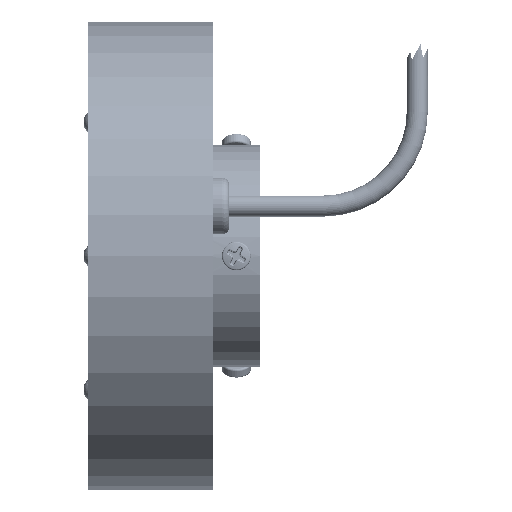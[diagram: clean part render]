
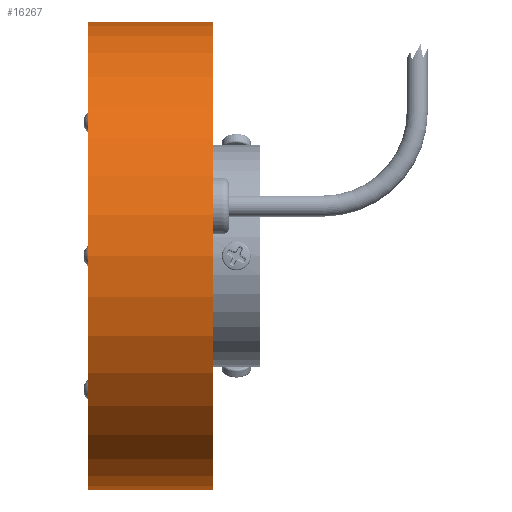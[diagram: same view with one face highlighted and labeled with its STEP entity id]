
A CAD part, left-side view. The second image highlights one B-rep face of the part: STEP entity #16267.
In plain terms, the highlighted cylindrical face has radius 63.246 mm (diameter 126.492 mm), a partial arc.
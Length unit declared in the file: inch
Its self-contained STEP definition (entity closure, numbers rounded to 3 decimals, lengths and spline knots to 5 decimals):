
#752 = EDGE_CURVE ( 'NONE', #32881, #24678, #53274, .T. ) ;
#1386 = CARTESIAN_POINT ( 'NONE',  ( 0., 0., -2.49 ) ) ;
#1412 = ORIENTED_EDGE ( 'NONE', *, *, #37118, .F. ) ;
#6451 = ORIENTED_EDGE ( 'NONE', *, *, #57151, .T. ) ;
#7951 = LINE ( 'NONE', #45377, #44609 ) ;
#10256 = DIRECTION ( 'NONE',  ( 0., -1., 0. ) ) ;
#10752 = AXIS2_PLACEMENT_3D ( 'NONE', #12780, #53138, #43316 ) ;
#12780 = CARTESIAN_POINT ( 'NONE',  ( 0., 1.33, 0. ) ) ;
#13418 = VECTOR ( 'NONE', #57573, 39.37008 ) ;
#14925 = DIRECTION ( 'NONE',  ( 0., 0., -1. ) ) ;
#14967 = DIRECTION ( 'NONE',  ( 0., 0., 1. ) ) ;
#16267 = ADVANCED_FACE ( 'NONE', ( #54564 ), #52269, .T. ) ;
#19283 = CARTESIAN_POINT ( 'NONE',  ( 0., 1.33, 2.49 ) ) ;
#20622 = CIRCLE ( 'NONE', #59730, 2.49 ) ;
#21723 = CARTESIAN_POINT ( 'NONE',  ( 0., 0., 2.49 ) ) ;
#21802 = CARTESIAN_POINT ( 'NONE',  ( 0., 1.33, -2.49 ) ) ;
#24678 = VERTEX_POINT ( 'NONE', #1386 ) ;
#30219 = ORIENTED_EDGE ( 'NONE', *, *, #38037, .F. ) ;
#32881 = VERTEX_POINT ( 'NONE', #46612 ) ;
#35095 = CARTESIAN_POINT ( 'NONE',  ( 0., 0., 0. ) ) ;
#37118 = EDGE_CURVE ( 'NONE', #49051, #46616, #7951, .T. ) ;
#38037 = EDGE_CURVE ( 'NONE', #32881, #49051, #50242, .T. ) ;
#39854 = DIRECTION ( 'NONE',  ( 0., 1., 0. ) ) ;
#43316 = DIRECTION ( 'NONE',  ( 0., 0., 1. ) ) ;
#44609 = VECTOR ( 'NONE', #10256, 39.37008 ) ;
#45377 = CARTESIAN_POINT ( 'NONE',  ( 0., 1.33, 2.49 ) ) ;
#46612 = CARTESIAN_POINT ( 'NONE',  ( 0., 1.33, -2.49 ) ) ;
#46616 = VERTEX_POINT ( 'NONE', #21723 ) ;
#49051 = VERTEX_POINT ( 'NONE', #19283 ) ;
#49433 = AXIS2_PLACEMENT_3D ( 'NONE', #61038, #54894, #14925 ) ;
#50242 = CIRCLE ( 'NONE', #10752, 2.49 ) ;
#52269 = CYLINDRICAL_SURFACE ( 'NONE', #49433, 2.49 ) ;
#53138 = DIRECTION ( 'NONE',  ( 0., 1., 0. ) ) ;
#53274 = LINE ( 'NONE', #21802, #13418 ) ;
#54564 = FACE_OUTER_BOUND ( 'NONE', #62404, .T. ) ;
#54894 = DIRECTION ( 'NONE',  ( 0., -1., 0. ) ) ;
#57151 = EDGE_CURVE ( 'NONE', #24678, #46616, #20622, .T. ) ;
#57573 = DIRECTION ( 'NONE',  ( 0., -1., 0. ) ) ;
#59730 = AXIS2_PLACEMENT_3D ( 'NONE', #35095, #39854, #14967 ) ;
#60699 = ORIENTED_EDGE ( 'NONE', *, *, #752, .T. ) ;
#61038 = CARTESIAN_POINT ( 'NONE',  ( 0., 1.33, 0. ) ) ;
#62404 = EDGE_LOOP ( 'NONE', ( #1412, #30219, #60699, #6451 ) ) ;
